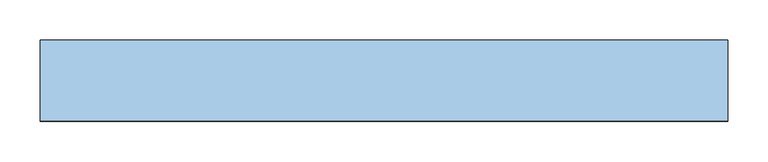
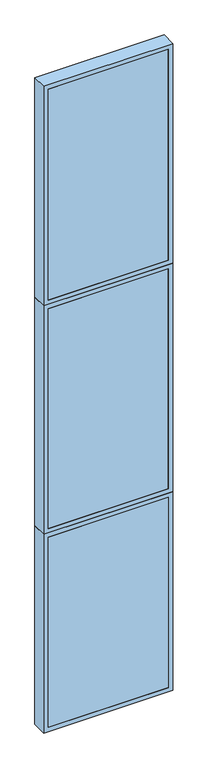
"""IFC4 building model written with IfcOpenShell, lengths in millimetres: window geometry, TRP_CP_ARC_FI_V1 : AL_P03_85."""

from ifc_helpers import new_model, si_unit, frame, origin, place, context, project, spatial, polyline, outline, extrude, source, transform, mapped, element, save


def window_b0d2bd1e(model_context):
    return source(origin(), model_context, "Body", "SweptSolid", [
        extrude(outline(polyline([(395.0, -50.0), (-395.0, -50.0), (-395.0, -30.0), (395.0, -30.0), (395.0, -50.0)])), frame((0.0, 0.0, 30.0), z_axis=(0.0, 0.0, 1.0), x_axis=(1.0, 0.0, 0.0)), (0.0, 0.0, 1.0), 1323.0),
        extrude(outline(polyline([(1383.0, 425.0), (1383.0, -425.0), (0.0, -425.0), (0.0, 425.0), (1383.0, 425.0)]), holes=[polyline([(30.0, 395.0), (30.0, -395.0), (1353.0, -395.0), (1353.0, 395.0), (30.0, 395.0)])]), frame((0.0, -50.0, 0.0), z_axis=(0.0, 1.0, 0.0), x_axis=(0.0, 0.0, 1.0)), (0.0, 0.0, 1.0), 100.0),
        extrude(outline(polyline([(2973.0, 425.0), (2973.0, -425.0), (1383.0, -425.0), (1383.0, 425.0), (2973.0, 425.0)]), holes=[polyline([(1413.0, 395.0), (1413.0, -395.0), (2943.0, -395.0), (2943.0, 395.0), (1413.0, 395.0)])]), frame((0.0, -50.0, 0.0), z_axis=(0.0, 1.0, 0.0), x_axis=(0.0, 0.0, 1.0)), (0.0, 0.0, 1.0), 100.0),
        extrude(outline(polyline([(395.0, -50.0), (-395.0, -50.0), (-395.0, -30.0), (395.0, -30.0), (395.0, -50.0)])), frame((0.0, 0.0, 1413.0), z_axis=(0.0, 0.0, 1.0), x_axis=(1.0, 0.0, 0.0)), (0.0, 0.0, 1.0), 1530.0),
        extrude(outline(polyline([(4500.0, 425.0), (4500.0, -425.0), (2973.0, -425.0), (2973.0, 425.0), (4500.0, 425.0)]), holes=[polyline([(3003.0, 395.0), (3003.0, -395.0), (4470.0, -395.0), (4470.0, 395.0), (3003.0, 395.0)])]), frame((0.0, -50.0, 0.0), z_axis=(0.0, 1.0, 0.0), x_axis=(0.0, 0.0, 1.0)), (0.0, 0.0, 1.0), 100.0),
        extrude(outline(polyline([(395.0, -50.0), (-395.0, -50.0), (-395.0, -30.0), (395.0, -30.0), (395.0, -50.0)])), frame((0.0, 0.0, 3003.0), z_axis=(0.0, 0.0, 1.0), x_axis=(1.0, 0.0, 0.0)), (0.0, 0.0, 1.0), 1467.0),
    ])


if __name__ == "__main__":
    model = new_model("IFC4")
    model_context = context("Model", 3, world=origin())
    ifc_project = project(units=[si_unit("LENGTHUNIT", "METRE", prefix="MILLI")], contexts=[model_context])
    site = spatial("IfcSite", under=ifc_project)
    building = spatial("IfcBuilding", under=site)
    placement = place(None, origin())
    window_shape = window_b0d2bd1e(model_context)
    element("IfcWindow", 1, ObjectType="TRP_CP_ARC_FI_V1 : AL_P03_85", at=placement, inside=building, context=model_context, shape_type="MappedRepresentation", body=[
        mapped(window_shape, transform((0.0, 0.0, 0.0), x_axis=(1.0, 0.0, 0.0), y_axis=(0.0, 1.0, 0.0), z_axis=(0.0, 0.0, 1.0))),
    ])
    save(model, "model.ifc")
